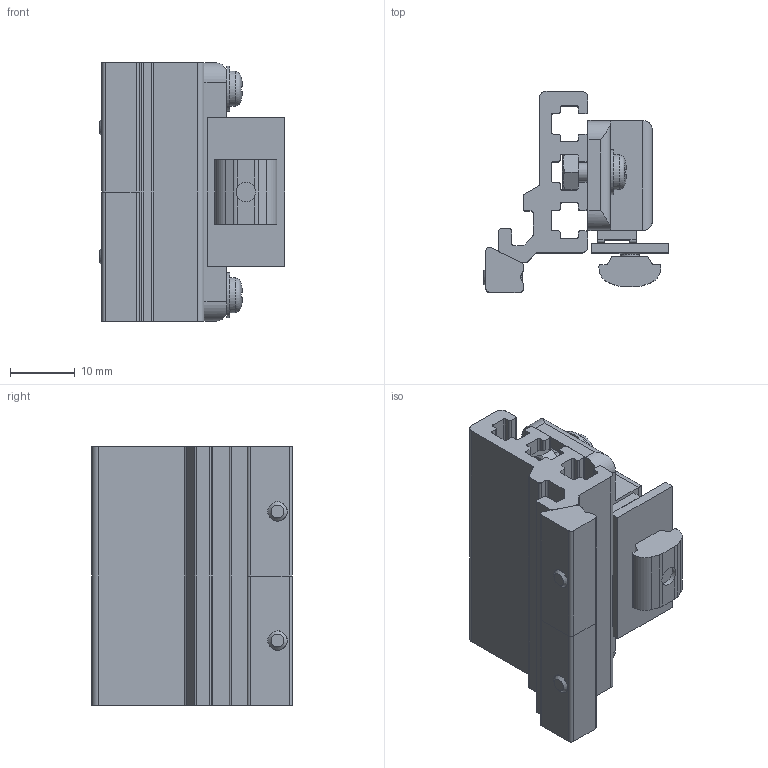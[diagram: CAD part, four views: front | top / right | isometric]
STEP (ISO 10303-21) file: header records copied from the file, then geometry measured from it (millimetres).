
FILE_DESCRIPTION(('STEP AP214'),'1');
FILE_NAME('MD25-S.stp','2022-06-06T08:58:54',(' '),(' '),'Spatial InterOp 3D',' ',' ');
FILE_SCHEMA(('AUTOMOTIVE_DESIGN { 1 0 10303 214 1 1 1 1 }'));
Length unit declared in the file: millimetre
Products named in the file (18): ST2S-L40; NW25; M3*6押しねじ; MD25-S; MD25-N; MD40-N; パーツ95; ___; 受け板; ねじ: 皿頭 - M3.0 x 6.0; NF25-M3; M3×8NNS; M3PW
Assembly tree (18 placements, depth 4):
  MD25-S
    ST2S-L40
      NW25
      M3*6押しねじ
      ST2S-L40
      NW25
      M3*6押しねじ
    MD25-N
      MD40-N
      パーツ95  x2
      ___
        受け板
        ねじ: 皿頭 - M3.0 x 6.0
        NF25-M3
      M3×8NNS
      M3PW
      M3×8NNS
      M3PW
Bounding box: 28.7 x 31.1 x 40 mm (x, y, z)
Volume: 12982.6 mm3; surface area: 10760.1 mm2
Topology: 15 solids, 15 shells, 361 faces, 955 edges, 628 vertices
Faces by surface type: plane 218, cylinder 126, cone 13, torus 2, sphere 2
Full cylindrical faces by diameter (mm): 3 x9, 3.2 x2, 4.5 x1, 7 x2
Entity records: 14091 total; most frequent: CARTESIAN_POINT 2089, DIRECTION 1884, ORIENTED_EDGE 1790, EDGE_CURVE 895, AXIS2_PLACEMENT_3D 648, VERTEX_POINT 605, LINE 588, VECTOR 588
